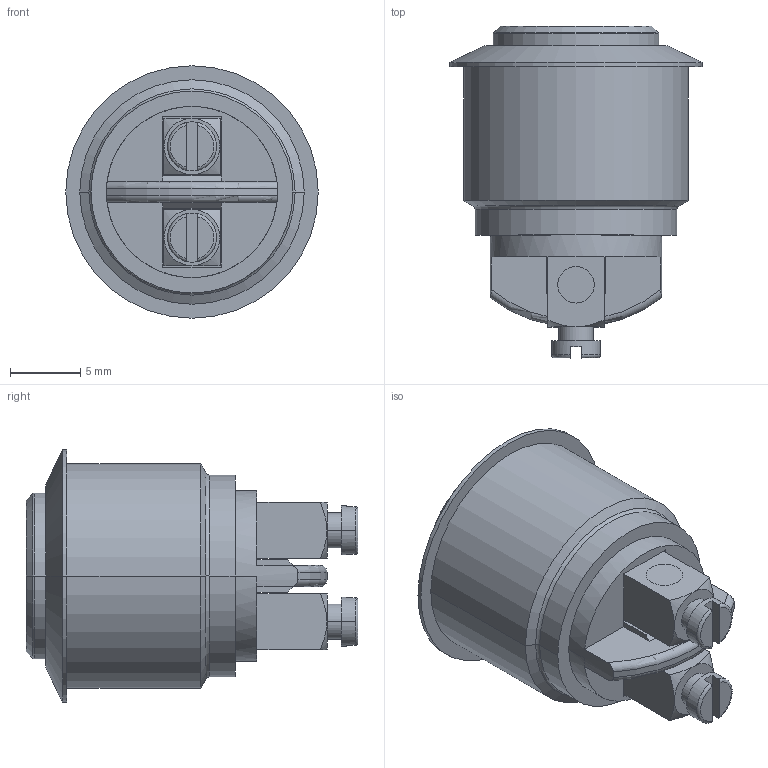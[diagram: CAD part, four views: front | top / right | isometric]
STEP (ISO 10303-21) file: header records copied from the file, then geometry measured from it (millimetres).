
FILE_DESCRIPTION((''),'2;1');
FILE_NAME('AV0630C900_SW0001','2008-10-22T',('jlgachon'),(''),'PRO/ENGINEER BY PARAMETRIC TECHNOLOGY CORPORATION, 2007030','PRO/ENGINEER BY PARAMETRIC TECHNOLOGY CORPORATION, 2007030','');
FILE_SCHEMA(('CONFIG_CONTROL_DESIGN'));
Length unit declared in the file: millimetre
Products named in the file (1): AV0630C900_SW0001
Bounding box: 18 x 23.65 x 18 mm (x, y, z)
Volume: 3205.4 mm3; surface area: 1696.4 mm2
Topology: 1 solids, 1 shells, 105 faces, 242 edges, 152 vertices
Faces by surface type: plane 50, cylinder 27, cone 18, torus 10
Entity records: 3424 total; most frequent: CARTESIAN_POINT 991, DIRECTION 508, ORIENTED_EDGE 484, EDGE_CURVE 242, AXIS2_PLACEMENT_3D 195, VERTEX_POINT 152, VECTOR 118, LINE 118
